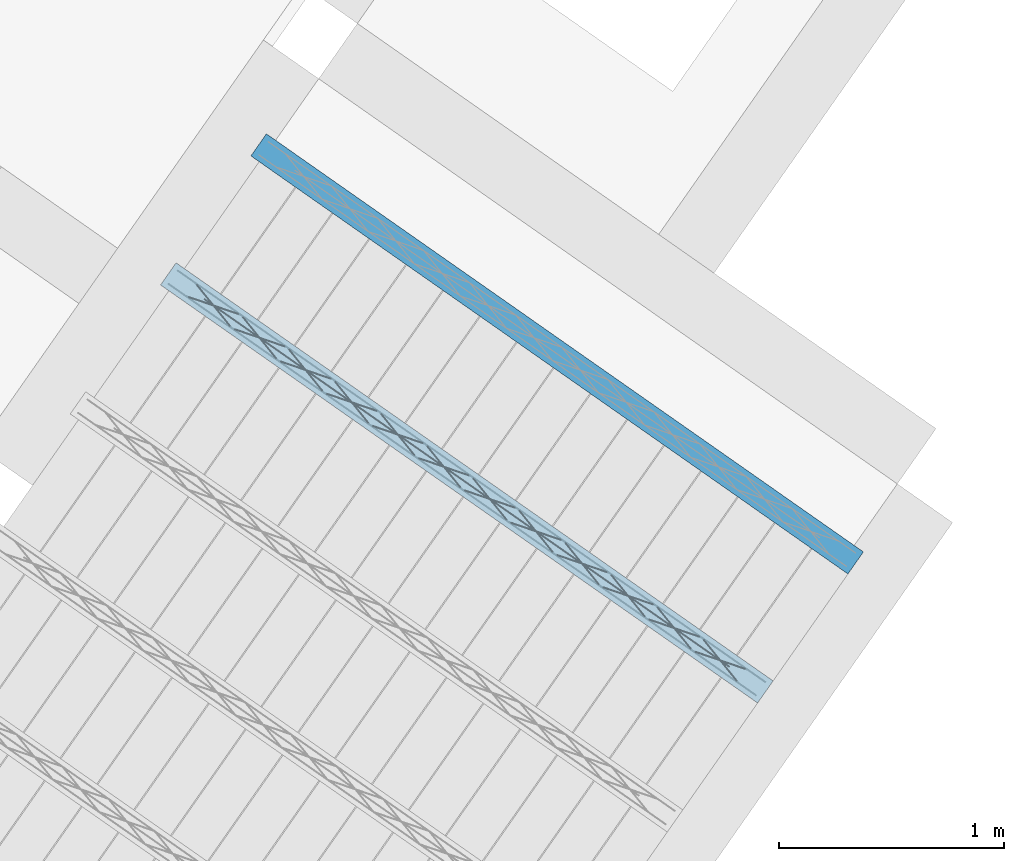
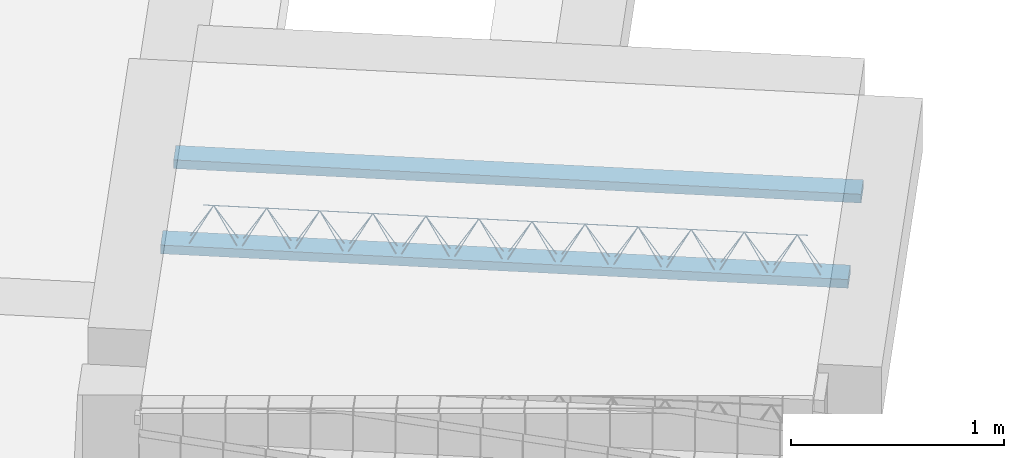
# One storey, part 16 of 46: 2 beams.
"""IFC2X3 building model written with IfcOpenShell, lengths in metres."""

from ifc_helpers import new_model, entity, si_unit, converted_unit, derived_unit, direction, frame, frame_2d, origin, origin_2d_with_axis, place, context, subcontext, project, spatial, rectangle, circle, extrude, material, type_object, element, save


model = new_model("IFC2X3")

# Units and contexts
model_context = context("Model", 3, precision=1e-05, world=origin(), true_north=direction((6.123031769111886e-17, 1.0)))
body_context = subcontext(model_context, "Body", "Model", "MODEL_VIEW")
ifc_project = project(units=[si_unit("LENGTHUNIT", "METRE"), si_unit("AREAUNIT", "SQUARE_METRE"), si_unit("VOLUMEUNIT", "CUBIC_METRE"), converted_unit("PLANEANGLEUNIT", "DEGREE", entity("IfcPlaneAngleMeasure", 0.017453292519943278), si_unit("PLANEANGLEUNIT", "RADIAN"), dimensions=[0, 0, 0, 0, 0, 0, 0]), si_unit("MASSUNIT", "GRAM", prefix="KILO"), derived_unit("MASSDENSITYUNIT", [(si_unit("MASSUNIT", "GRAM", prefix="KILO"), 1), (si_unit("LENGTHUNIT", "METRE"), -3)]), derived_unit("IONCONCENTRATIONUNIT", [(si_unit("MASSUNIT", "GRAM", prefix="KILO"), 1), (si_unit("LENGTHUNIT", "METRE"), -3)]), derived_unit("MOMENTOFINERTIAUNIT", [(si_unit("LENGTHUNIT", "METRE"), 4)]), si_unit("TIMEUNIT", "SECOND"), si_unit("FREQUENCYUNIT", "HERTZ"), si_unit("THERMODYNAMICTEMPERATUREUNIT", "DEGREE_CELSIUS"), derived_unit("THERMALTRANSMITTANCEUNIT", [(si_unit("MASSUNIT", "GRAM", prefix="KILO"), 1), (si_unit("THERMODYNAMICTEMPERATUREUNIT", "KELVIN"), -1), (si_unit("TIMEUNIT", "SECOND"), -3)]), derived_unit("THERMALCONDUCTANCEUNIT", [(si_unit("MASSUNIT", "GRAM", prefix="KILO"), 1), (si_unit("THERMODYNAMICTEMPERATUREUNIT", "KELVIN"), -1), (si_unit("TIMEUNIT", "SECOND"), -3), (si_unit("LENGTHUNIT", "METRE"), 1)]), derived_unit("VOLUMETRICFLOWRATEUNIT", [(si_unit("LENGTHUNIT", "METRE", prefix="DECI"), 3), (si_unit("TIMEUNIT", "SECOND"), -1)]), derived_unit("MASSFLOWRATEUNIT", [(si_unit("MASSUNIT", "GRAM", prefix="KILO"), 1), (si_unit("TIMEUNIT", "SECOND"), -1)]), derived_unit("ROTATIONALFREQUENCYUNIT", [(si_unit("TIMEUNIT", "SECOND"), -1)]), si_unit("ELECTRICCURRENTUNIT", "AMPERE"), si_unit("ELECTRICVOLTAGEUNIT", "VOLT"), si_unit("POWERUNIT", "WATT"), si_unit("FORCEUNIT", "NEWTON", prefix="KILO"), si_unit("ILLUMINANCEUNIT", "LUX"), si_unit("LUMINOUSFLUXUNIT", "LUMEN"), si_unit("LUMINOUSINTENSITYUNIT", "CANDELA"), si_unit("ENERGYUNIT", "JOULE"), derived_unit("USERDEFINED", [(si_unit("MASSUNIT", "GRAM", prefix="KILO"), -1), (si_unit("LENGTHUNIT", "METRE"), -2), (si_unit("TIMEUNIT", "SECOND"), 3), (si_unit("LUMINOUSFLUXUNIT", "LUMEN"), 1)]), derived_unit("USERDEFINED", [(si_unit("MASSUNIT", "GRAM", prefix="KILO"), 1), (si_unit("TIMEUNIT", "SECOND"), -3), (si_unit("LENGTHUNIT", "METRE"), 3), (si_unit("ELECTRICCURRENTUNIT", "AMPERE"), -2)]), derived_unit("SOUNDPOWERUNIT", [(si_unit("MASSUNIT", "GRAM", prefix="KILO"), 1), (si_unit("TIMEUNIT", "SECOND"), -3), (si_unit("LENGTHUNIT", "METRE"), 2)]), derived_unit("SOUNDPRESSUREUNIT", [(si_unit("MASSUNIT", "GRAM", prefix="KILO"), 1), (si_unit("LENGTHUNIT", "METRE"), -1), (si_unit("TIMEUNIT", "SECOND"), -2)]), derived_unit("LINEARVELOCITYUNIT", [(si_unit("LENGTHUNIT", "METRE"), 1), (si_unit("TIMEUNIT", "SECOND"), -1)]), si_unit("PRESSUREUNIT", "PASCAL"), derived_unit("USERDEFINED", [(si_unit("MASSUNIT", "GRAM", prefix="KILO"), 1), (si_unit("LENGTHUNIT", "METRE"), -2), (si_unit("TIMEUNIT", "SECOND"), -2)]), derived_unit("LINEARFORCEUNIT", [(si_unit("MASSUNIT", "GRAM", prefix="KILO"), 1), (si_unit("TIMEUNIT", "SECOND"), -2)]), derived_unit("PLANARFORCEUNIT", [(si_unit("MASSUNIT", "GRAM", prefix="KILO"), 1), (si_unit("LENGTHUNIT", "METRE"), -1), (si_unit("TIMEUNIT", "SECOND"), -2)]), derived_unit("SPECIFICHEATCAPACITYUNIT", [(si_unit("THERMODYNAMICTEMPERATUREUNIT", "KELVIN"), -1), (si_unit("LENGTHUNIT", "METRE"), 2), (si_unit("TIMEUNIT", "SECOND"), -2)]), derived_unit("HEATFLUXDENSITYUNIT", [(si_unit("MASSUNIT", "GRAM", prefix="KILO"), 1), (si_unit("TIMEUNIT", "SECOND"), -3)]), derived_unit("HEATINGVALUEUNIT", [(si_unit("LENGTHUNIT", "METRE"), 2), (si_unit("TIMEUNIT", "SECOND"), -2)]), derived_unit("VAPORPERMEABILITYUNIT", [(si_unit("LENGTHUNIT", "METRE"), -1), (si_unit("TIMEUNIT", "SECOND"), 1)]), derived_unit("DYNAMICVISCOSITYUNIT", [(si_unit("MASSUNIT", "GRAM", prefix="KILO"), 1), (si_unit("TIMEUNIT", "SECOND"), -1), (si_unit("LENGTHUNIT", "METRE"), -1)]), derived_unit("THERMALEXPANSIONCOEFFICIENTUNIT", [(si_unit("THERMODYNAMICTEMPERATUREUNIT", "KELVIN"), -1)]), derived_unit("MODULUSOFELASTICITYUNIT", [(si_unit("MASSUNIT", "GRAM", prefix="KILO"), 1), (si_unit("LENGTHUNIT", "METRE"), -1), (si_unit("TIMEUNIT", "SECOND"), -2)]), derived_unit("ISOTHERMALMOISTURECAPACITYUNIT", [(si_unit("MASSUNIT", "GRAM", prefix="KILO"), -1), (si_unit("LENGTHUNIT", "METRE"), 3)]), derived_unit("MOISTUREDIFFUSIVITYUNIT", [(si_unit("TIMEUNIT", "SECOND"), -1), (si_unit("LENGTHUNIT", "METRE"), 2)]), derived_unit("MASSPERLENGTHUNIT", [(si_unit("MASSUNIT", "GRAM", prefix="KILO"), 1), (si_unit("LENGTHUNIT", "METRE"), -1)]), derived_unit("THERMALRESISTANCEUNIT", [(si_unit("MASSUNIT", "GRAM", prefix="KILO"), -1), (si_unit("TIMEUNIT", "SECOND"), 3), (si_unit("THERMODYNAMICTEMPERATUREUNIT", "KELVIN"), 1)]), derived_unit("ACCELERATIONUNIT", [(si_unit("LENGTHUNIT", "METRE"), 1), (si_unit("TIMEUNIT", "SECOND"), -2)]), derived_unit("ANGULARVELOCITYUNIT", [(si_unit("TIMEUNIT", "SECOND"), -1), (si_unit("PLANEANGLEUNIT", "RADIAN"), 1)]), derived_unit("LINEARSTIFFNESSUNIT", [(si_unit("MASSUNIT", "GRAM", prefix="KILO"), 1), (si_unit("TIMEUNIT", "SECOND"), -2)]), derived_unit("WARPINGCONSTANTUNIT", [(si_unit("LENGTHUNIT", "METRE"), 6)]), derived_unit("LINEARMOMENTUNIT", [(si_unit("MASSUNIT", "GRAM", prefix="KILO"), 1), (si_unit("LENGTHUNIT", "METRE"), 1), (si_unit("TIMEUNIT", "SECOND"), -2)]), derived_unit("TORQUEUNIT", [(si_unit("MASSUNIT", "GRAM", prefix="KILO"), 1), (si_unit("LENGTHUNIT", "METRE"), 2), (si_unit("TIMEUNIT", "SECOND"), -2)])], contexts=[model_context])

# Site, building, storey
site_placement = place(None, origin())
site = spatial("IfcSite", under=ifc_project, at=site_placement, Name="Default", CompositionType="ELEMENT")
building_placement = place(site_placement, origin())
building = spatial("IfcBuilding", under=site, at=building_placement, CompositionType="ELEMENT")
storey_placement = place(building_placement, frame((0.0, 0.0, 99.52000000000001)))
storey = spatial("IfcBuildingStorey", under=building, at=storey_placement, Name="F1", CompositionType="ELEMENT", Elevation=99.52000000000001)

# Beams
beam_type = type_object("IfcBeamType", Name="Vigueta 8 (Paño 4) (Mf = 14.18)", PredefinedType="JOIST")
beam_1_placement = place(storey_placement, origin())
element("IfcBeam", 1, at=beam_1_placement, inside=storey, type_object=beam_type, Name="Vigueta 8 (Paño 4) (Mf = 14.18)", ObjectType="Mf = 14.18", context=body_context, shape_type="SweptSolid", body=[
    extrude(rectangle(XDim=3.2399999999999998, YDim=0.11999999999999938, at=frame_2d((-6.661338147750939e-16, -6.591949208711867e-17), x_axis=(1.0, 0.0))), frame((8.592970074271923, -0.7061484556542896, 0.2000000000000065), z_axis=(0.0, 0.0, 1.0), x_axis=(0.8191520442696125, -0.5735764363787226, 0.0)), (0.0, 0.0, 1.0), 0.04999999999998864),
    extrude(circle(Radius=0.0025, at=origin_2d_with_axis()), frame((7.264954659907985, 0.17979006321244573, 0.22500000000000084), z_axis=(0.8191520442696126, -0.5735764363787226, 0.0), x_axis=(-0.5735764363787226, -0.8191520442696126, 0.0)), (0.0, 0.0, 1.0), 3.191999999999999),
    extrude(circle(Radius=0.0025, at=origin_2d_with_axis()), frame((7.4256784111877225, 0.1111979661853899, 0.4500000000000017), z_axis=(0.8191520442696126, -0.5735764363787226, 0.0), x_axis=(-0.5735764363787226, -0.8191520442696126, 0.0)), (0.0, 0.0, 1.0), 2.849999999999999),
    extrude(circle(Radius=0.0025, at=origin_2d_with_axis()), frame((9.801049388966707, -1.5960025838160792, 0.22500000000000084), z_axis=(-0.3145304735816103, 0.389334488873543, 0.8657304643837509), x_axis=(-0.7778747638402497, -0.6284193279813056, 0.0)), (0.0, 0.0, 1.0), 0.2598961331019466),
    extrude(circle(Radius=0.0025, at=origin_2d_with_axis()), frame((9.596261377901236, -1.4526084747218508, 0.22499999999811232), z_axis=(0.47343050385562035, -0.1624017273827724, 0.8657304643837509), x_axis=(-0.3244721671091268, -0.9458952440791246, 0.0)), (0.0, 0.0, 1.0), 0.25989613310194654),
    extrude(circle(Radius=0.0025, at=origin_2d_with_axis()), frame((9.596261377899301, -1.4526084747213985, 0.22500000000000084), z_axis=(-0.3145304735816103, 0.389334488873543, 0.8657304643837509), x_axis=(-0.7778747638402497, -0.6284193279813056, 0.0)), (0.0, 0.0, 1.0), 0.2598961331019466),
    extrude(circle(Radius=0.0025, at=origin_2d_with_axis()), frame((9.391473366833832, -1.30921436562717, 0.22499999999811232), z_axis=(0.47343050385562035, -0.1624017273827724, 0.8657304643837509), x_axis=(-0.3244721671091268, -0.9458952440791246, 0.0)), (0.0, 0.0, 1.0), 0.25989613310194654),
    extrude(circle(Radius=0.0025, at=origin_2d_with_axis()), frame((9.3914733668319, -1.3092143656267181, 0.22500000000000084), z_axis=(-0.3145304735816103, 0.389334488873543, 0.8657304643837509), x_axis=(-0.7778747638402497, -0.6284193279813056, 0.0)), (0.0, 0.0, 1.0), 0.2598961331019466),
    extrude(circle(Radius=0.0025, at=origin_2d_with_axis()), frame((9.186685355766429, -1.1658202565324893, 0.22499999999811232), z_axis=(0.47343050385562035, -0.1624017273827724, 0.8657304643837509), x_axis=(-0.3244721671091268, -0.9458952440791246, 0.0)), (0.0, 0.0, 1.0), 0.25989613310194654),
    extrude(circle(Radius=0.0025, at=origin_2d_with_axis()), frame((9.186685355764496, -1.1658202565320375, 0.22500000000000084), z_axis=(-0.3145304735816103, 0.389334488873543, 0.8657304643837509), x_axis=(-0.7778747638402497, -0.6284193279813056, 0.0)), (0.0, 0.0, 1.0), 0.2598961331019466),
    extrude(circle(Radius=0.0025, at=origin_2d_with_axis()), frame((8.981897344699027, -1.0224261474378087, 0.22499999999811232), z_axis=(0.47343050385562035, -0.1624017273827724, 0.8657304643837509), x_axis=(-0.3244721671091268, -0.9458952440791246, 0.0)), (0.0, 0.0, 1.0), 0.25989613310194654),
    extrude(circle(Radius=0.0025, at=origin_2d_with_axis()), frame((8.981897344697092, -1.0224261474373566, 0.22500000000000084), z_axis=(-0.3145304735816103, 0.389334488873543, 0.8657304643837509), x_axis=(-0.7778747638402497, -0.6284193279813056, 0.0)), (0.0, 0.0, 1.0), 0.2598961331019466),
    extrude(circle(Radius=0.0025, at=origin_2d_with_axis()), frame((8.777109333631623, -0.879032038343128, 0.22499999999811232), z_axis=(0.47343050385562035, -0.1624017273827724, 0.8657304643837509), x_axis=(-0.3244721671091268, -0.9458952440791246, 0.0)), (0.0, 0.0, 1.0), 0.25989613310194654),
    extrude(circle(Radius=0.0025, at=origin_2d_with_axis()), frame((8.77710933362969, -0.8790320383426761, 0.22500000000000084), z_axis=(-0.3145304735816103, 0.389334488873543, 0.8657304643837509), x_axis=(-0.7778747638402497, -0.6284193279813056, 0.0)), (0.0, 0.0, 1.0), 0.2598961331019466),
    extrude(circle(Radius=0.0025, at=origin_2d_with_axis()), frame((8.57232132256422, -0.7356379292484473, 0.22499999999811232), z_axis=(0.47343050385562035, -0.1624017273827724, 0.8657304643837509), x_axis=(-0.3244721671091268, -0.9458952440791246, 0.0)), (0.0, 0.0, 1.0), 0.25989613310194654),
    extrude(circle(Radius=0.0025, at=origin_2d_with_axis()), frame((8.572321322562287, -0.7356379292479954, 0.22500000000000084), z_axis=(-0.3145304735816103, 0.389334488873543, 0.8657304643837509), x_axis=(-0.7778747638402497, -0.6284193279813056, 0.0)), (0.0, 0.0, 1.0), 0.2598961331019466),
    extrude(circle(Radius=0.0025, at=origin_2d_with_axis()), frame((8.367533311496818, -0.5922438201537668, 0.22499999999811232), z_axis=(0.47343050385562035, -0.1624017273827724, 0.8657304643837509), x_axis=(-0.3244721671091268, -0.9458952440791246, 0.0)), (0.0, 0.0, 1.0), 0.25989613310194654),
    extrude(circle(Radius=0.0025, at=origin_2d_with_axis()), frame((8.367533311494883, -0.5922438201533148, 0.22500000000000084), z_axis=(-0.3145304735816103, 0.389334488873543, 0.8657304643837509), x_axis=(-0.7778747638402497, -0.6284193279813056, 0.0)), (0.0, 0.0, 1.0), 0.2598961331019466),
    extrude(circle(Radius=0.0025, at=origin_2d_with_axis()), frame((8.162745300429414, -0.44884971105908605, 0.22499999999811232), z_axis=(0.47343050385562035, -0.1624017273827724, 0.8657304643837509), x_axis=(-0.3244721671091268, -0.9458952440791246, 0.0)), (0.0, 0.0, 1.0), 0.25989613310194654),
    extrude(circle(Radius=0.0025, at=origin_2d_with_axis()), frame((8.16274530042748, -0.4488497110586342, 0.22500000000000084), z_axis=(-0.3145304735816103, 0.389334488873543, 0.8657304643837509), x_axis=(-0.7778747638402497, -0.6284193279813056, 0.0)), (0.0, 0.0, 1.0), 0.2598961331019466),
    extrude(circle(Radius=0.0025, at=origin_2d_with_axis()), frame((7.95795728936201, -0.30545560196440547, 0.22499999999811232), z_axis=(0.47343050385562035, -0.1624017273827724, 0.8657304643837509), x_axis=(-0.3244721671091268, -0.9458952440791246, 0.0)), (0.0, 0.0, 1.0), 0.25989613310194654),
    extrude(circle(Radius=0.0025, at=origin_2d_with_axis()), frame((7.957957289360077, -0.30545560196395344, 0.22500000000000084), z_axis=(-0.3145304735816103, 0.389334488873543, 0.8657304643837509), x_axis=(-0.7778747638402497, -0.6284193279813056, 0.0)), (0.0, 0.0, 1.0), 0.2598961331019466),
    extrude(circle(Radius=0.0025, at=origin_2d_with_axis()), frame((7.753169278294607, -0.16206149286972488, 0.22499999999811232), z_axis=(0.47343050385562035, -0.1624017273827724, 0.8657304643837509), x_axis=(-0.3244721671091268, -0.9458952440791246, 0.0)), (0.0, 0.0, 1.0), 0.25989613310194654),
    extrude(circle(Radius=0.0025, at=origin_2d_with_axis()), frame((7.753169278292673, -0.16206149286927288, 0.22500000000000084), z_axis=(-0.3145304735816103, 0.389334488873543, 0.8657304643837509), x_axis=(-0.7778747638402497, -0.6284193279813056, 0.0)), (0.0, 0.0, 1.0), 0.2598961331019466),
    extrude(circle(Radius=0.0025, at=origin_2d_with_axis()), frame((7.548381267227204, -0.018667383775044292, 0.22499999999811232), z_axis=(0.47343050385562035, -0.1624017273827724, 0.8657304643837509), x_axis=(-0.3244721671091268, -0.9458952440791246, 0.0)), (0.0, 0.0, 1.0), 0.25989613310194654),
    extrude(circle(Radius=0.0025, at=origin_2d_with_axis()), frame((7.54838126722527, -0.01866738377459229, 0.22500000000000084), z_axis=(-0.3145304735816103, 0.389334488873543, 0.8657304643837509), x_axis=(-0.7778747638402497, -0.6284193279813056, 0.0)), (0.0, 0.0, 1.0), 0.2598961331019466),
    extrude(circle(Radius=0.0025, at=origin_2d_with_axis()), frame((7.343593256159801, 0.1247267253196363, 0.22499999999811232), z_axis=(0.47343050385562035, -0.1624017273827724, 0.8657304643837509), x_axis=(-0.3244721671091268, -0.9458952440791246, 0.0)), (0.0, 0.0, 1.0), 0.25989613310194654),
    extrude(circle(Radius=0.0025, at=origin_2d_with_axis()), frame((7.306252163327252, 0.23876901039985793, 0.22500000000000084), z_axis=(0.8191520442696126, -0.5735764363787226, 0.0), x_axis=(-0.5735764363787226, -0.8191520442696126, 0.0)), (0.0, 0.0, 1.0), 3.191999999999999),
    extrude(circle(Radius=0.0025, at=origin_2d_with_axis()), frame((9.842346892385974, -1.537023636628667, 0.22500000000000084), z_axis=(-0.47343050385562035, 0.1624017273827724, 0.8657304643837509), x_axis=(-0.3244721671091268, -0.9458952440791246, 0.0)), (0.0, 0.0, 1.0), 0.25989613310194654),
    extrude(circle(Radius=0.0025, at=origin_2d_with_axis()), frame((9.637558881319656, -1.3936295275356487, 0.22499999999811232), z_axis=(0.3145304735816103, -0.389334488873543, 0.8657304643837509), x_axis=(-0.7778747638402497, -0.6284193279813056, 0.0)), (0.0, 0.0, 1.0), 0.2598961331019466),
    extrude(circle(Radius=0.0025, at=origin_2d_with_axis()), frame((9.63755888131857, -1.3936295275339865, 0.22500000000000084), z_axis=(-0.47343050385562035, 0.1624017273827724, 0.8657304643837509), x_axis=(-0.3244721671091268, -0.9458952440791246, 0.0)), (0.0, 0.0, 1.0), 0.25989613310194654),
    extrude(circle(Radius=0.0025, at=origin_2d_with_axis()), frame((9.432770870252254, -1.2502354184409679, 0.22499999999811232), z_axis=(0.3145304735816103, -0.389334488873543, 0.8657304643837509), x_axis=(-0.7778747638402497, -0.6284193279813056, 0.0)), (0.0, 0.0, 1.0), 0.2598961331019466),
    extrude(circle(Radius=0.0025, at=origin_2d_with_axis()), frame((9.432770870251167, -1.2502354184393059, 0.22500000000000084), z_axis=(-0.47343050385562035, 0.1624017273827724, 0.8657304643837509), x_axis=(-0.3244721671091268, -0.9458952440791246, 0.0)), (0.0, 0.0, 1.0), 0.25989613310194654),
    extrude(circle(Radius=0.0025, at=origin_2d_with_axis()), frame((9.22798285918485, -1.1068413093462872, 0.22499999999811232), z_axis=(0.3145304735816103, -0.389334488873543, 0.8657304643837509), x_axis=(-0.7778747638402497, -0.6284193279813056, 0.0)), (0.0, 0.0, 1.0), 0.2598961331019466),
    extrude(circle(Radius=0.0025, at=origin_2d_with_axis()), frame((9.227982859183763, -1.1068413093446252, 0.22500000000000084), z_axis=(-0.47343050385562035, 0.1624017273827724, 0.8657304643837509), x_axis=(-0.3244721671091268, -0.9458952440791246, 0.0)), (0.0, 0.0, 1.0), 0.25989613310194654),
    extrude(circle(Radius=0.0025, at=origin_2d_with_axis()), frame((9.023194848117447, -0.9634472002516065, 0.22499999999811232), z_axis=(0.3145304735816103, -0.389334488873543, 0.8657304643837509), x_axis=(-0.7778747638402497, -0.6284193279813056, 0.0)), (0.0, 0.0, 1.0), 0.2598961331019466),
    extrude(circle(Radius=0.0025, at=origin_2d_with_axis()), frame((9.02319484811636, -0.9634472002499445, 0.22500000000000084), z_axis=(-0.47343050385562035, 0.1624017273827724, 0.8657304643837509), x_axis=(-0.3244721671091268, -0.9458952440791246, 0.0)), (0.0, 0.0, 1.0), 0.25989613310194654),
    extrude(circle(Radius=0.0025, at=origin_2d_with_axis()), frame((8.818406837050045, -0.8200530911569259, 0.22499999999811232), z_axis=(0.3145304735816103, -0.389334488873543, 0.8657304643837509), x_axis=(-0.7778747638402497, -0.6284193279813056, 0.0)), (0.0, 0.0, 1.0), 0.2598961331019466),
    extrude(circle(Radius=0.0025, at=origin_2d_with_axis()), frame((8.818406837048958, -0.8200530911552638, 0.22500000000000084), z_axis=(-0.47343050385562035, 0.1624017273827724, 0.8657304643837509), x_axis=(-0.3244721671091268, -0.9458952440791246, 0.0)), (0.0, 0.0, 1.0), 0.25989613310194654),
    extrude(circle(Radius=0.0025, at=origin_2d_with_axis()), frame((8.613618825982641, -0.6766589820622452, 0.22499999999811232), z_axis=(0.3145304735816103, -0.389334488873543, 0.8657304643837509), x_axis=(-0.7778747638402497, -0.6284193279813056, 0.0)), (0.0, 0.0, 1.0), 0.2598961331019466),
    extrude(circle(Radius=0.0025, at=origin_2d_with_axis()), frame((8.613618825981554, -0.6766589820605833, 0.22500000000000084), z_axis=(-0.47343050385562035, 0.1624017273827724, 0.8657304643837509), x_axis=(-0.3244721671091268, -0.9458952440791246, 0.0)), (0.0, 0.0, 1.0), 0.25989613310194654),
    extrude(circle(Radius=0.0025, at=origin_2d_with_axis()), frame((8.408830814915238, -0.5332648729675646, 0.22499999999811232), z_axis=(0.3145304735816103, -0.389334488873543, 0.8657304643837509), x_axis=(-0.7778747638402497, -0.6284193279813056, 0.0)), (0.0, 0.0, 1.0), 0.2598961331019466),
    extrude(circle(Radius=0.0025, at=origin_2d_with_axis()), frame((8.40883081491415, -0.5332648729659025, 0.22500000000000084), z_axis=(-0.47343050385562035, 0.1624017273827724, 0.8657304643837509), x_axis=(-0.3244721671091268, -0.9458952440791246, 0.0)), (0.0, 0.0, 1.0), 0.25989613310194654),
    extrude(circle(Radius=0.0025, at=origin_2d_with_axis()), frame((8.204042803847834, -0.3898707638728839, 0.22499999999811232), z_axis=(0.3145304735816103, -0.389334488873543, 0.8657304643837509), x_axis=(-0.7778747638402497, -0.6284193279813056, 0.0)), (0.0, 0.0, 1.0), 0.2598961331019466),
    extrude(circle(Radius=0.0025, at=origin_2d_with_axis()), frame((8.204042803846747, -0.38987076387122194, 0.22500000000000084), z_axis=(-0.47343050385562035, 0.1624017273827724, 0.8657304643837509), x_axis=(-0.3244721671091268, -0.9458952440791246, 0.0)), (0.0, 0.0, 1.0), 0.25989613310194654),
    extrude(circle(Radius=0.0025, at=origin_2d_with_axis()), frame((7.999254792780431, -0.24647665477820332, 0.22499999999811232), z_axis=(0.3145304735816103, -0.389334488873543, 0.8657304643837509), x_axis=(-0.7778747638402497, -0.6284193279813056, 0.0)), (0.0, 0.0, 1.0), 0.2598961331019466),
    extrude(circle(Radius=0.0025, at=origin_2d_with_axis()), frame((7.999254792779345, -0.24647665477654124, 0.22500000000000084), z_axis=(-0.47343050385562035, 0.1624017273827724, 0.8657304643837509), x_axis=(-0.3244721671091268, -0.9458952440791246, 0.0)), (0.0, 0.0, 1.0), 0.25989613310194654),
    extrude(circle(Radius=0.0025, at=origin_2d_with_axis()), frame((7.7944667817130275, -0.10308254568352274, 0.22499999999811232), z_axis=(0.3145304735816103, -0.389334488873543, 0.8657304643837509), x_axis=(-0.7778747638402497, -0.6284193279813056, 0.0)), (0.0, 0.0, 1.0), 0.2598961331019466),
    extrude(circle(Radius=0.0025, at=origin_2d_with_axis()), frame((7.79446678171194, -0.10308254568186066, 0.22500000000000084), z_axis=(-0.47343050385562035, 0.1624017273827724, 0.8657304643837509), x_axis=(-0.3244721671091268, -0.9458952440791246, 0.0)), (0.0, 0.0, 1.0), 0.25989613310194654),
    extrude(circle(Radius=0.0025, at=origin_2d_with_axis()), frame((7.589678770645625, 0.04031156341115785, 0.22499999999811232), z_axis=(0.3145304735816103, -0.389334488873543, 0.8657304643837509), x_axis=(-0.7778747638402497, -0.6284193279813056, 0.0)), (0.0, 0.0, 1.0), 0.2598961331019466),
    extrude(circle(Radius=0.0025, at=origin_2d_with_axis()), frame((7.589678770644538, 0.04031156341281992, 0.22500000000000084), z_axis=(-0.47343050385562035, 0.1624017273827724, 0.8657304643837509), x_axis=(-0.3244721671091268, -0.9458952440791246, 0.0)), (0.0, 0.0, 1.0), 0.25989613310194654),
    extrude(circle(Radius=0.0025, at=origin_2d_with_axis()), frame((7.384890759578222, 0.18370567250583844, 0.22499999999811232), z_axis=(0.3145304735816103, -0.389334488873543, 0.8657304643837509), x_axis=(-0.7778747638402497, -0.6284193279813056, 0.0)), (0.0, 0.0, 1.0), 0.2598961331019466),
])
ifc_material = material(Name="Hormigón armado")
beam_2_placement = place(storey_placement, origin())
element("IfcBeam", 2, at=beam_2_placement, inside=storey, material=ifc_material, Name="238301", context=body_context, shape_type="SweptSolid", body=[
    extrude(rectangle(XDim=0.04999999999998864, YDim=0.12000000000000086, at=frame_2d((0.0, -5.342948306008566e-16), x_axis=(1.0, 0.0))), frame((7.667447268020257, 0.796451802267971, 0.22500000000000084), z_axis=(0.8191520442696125, -0.5735764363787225, 0.0), x_axis=(0.0, 0.0, -1.0)), (0.0, 0.0, 1.0), 3.2399999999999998),
])

save(model, "model.ifc")
